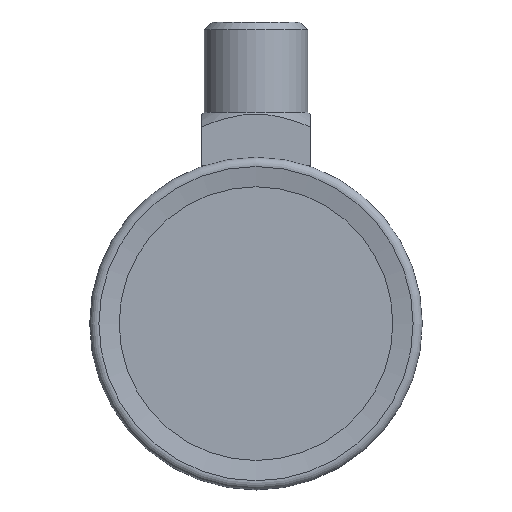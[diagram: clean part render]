
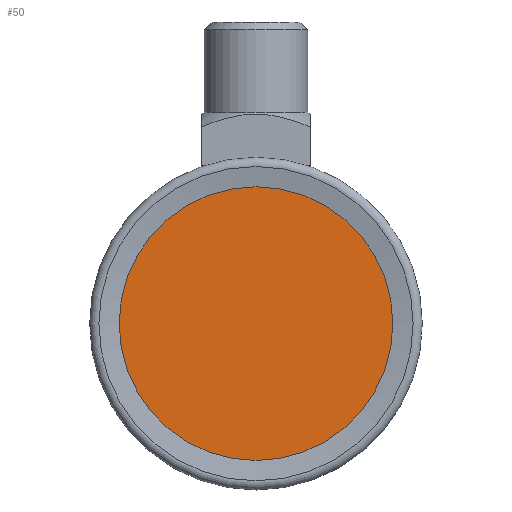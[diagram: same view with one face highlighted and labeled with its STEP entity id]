
A CAD part, front view. The second image highlights one B-rep face of the part: STEP entity #50.
In plain terms, the highlighted planar face has unit normal (0, -1, 0).
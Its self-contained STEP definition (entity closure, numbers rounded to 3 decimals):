
#50=ADVANCED_FACE('',(#154),#156,.F.);
#154=FACE_BOUND('',#155,.T.);
#155=EDGE_LOOP('',(#878));
#156=PLANE('',#157);
#157=AXIS2_PLACEMENT_3D('',#158,#159,#160);
#158=CARTESIAN_POINT('',(0.,-23.938,0.));
#159=DIRECTION('',(0.,1.,0.));
#160=DIRECTION('',(-1.,0.,0.));
#878=ORIENTED_EDGE('',*,*,#1310,.T.);
#1310=EDGE_CURVE('',#1549,#1549,#1550,.T.);
#1549=VERTEX_POINT('',#1977);
#1550=CIRCLE('',#1978,17.482);
#1977=CARTESIAN_POINT('',(0.,-23.938,-17.482));
#1978=AXIS2_PLACEMENT_3D('',#1979,#1980,#1981);
#1979=CARTESIAN_POINT('',(0.,-23.938,0.));
#1980=DIRECTION('',(0.,-1.,0.));
#1981=DIRECTION('',(0.,0.,-1.));
